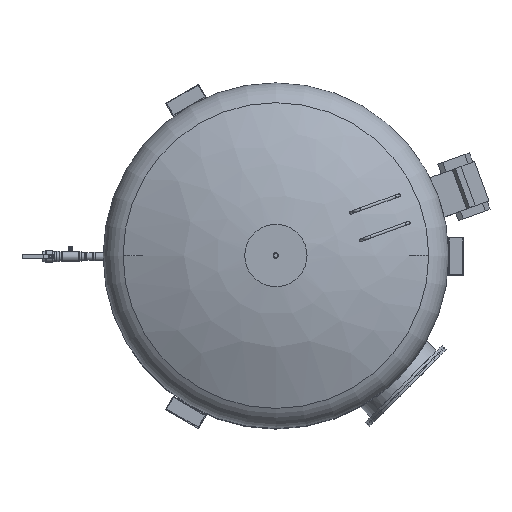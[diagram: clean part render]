
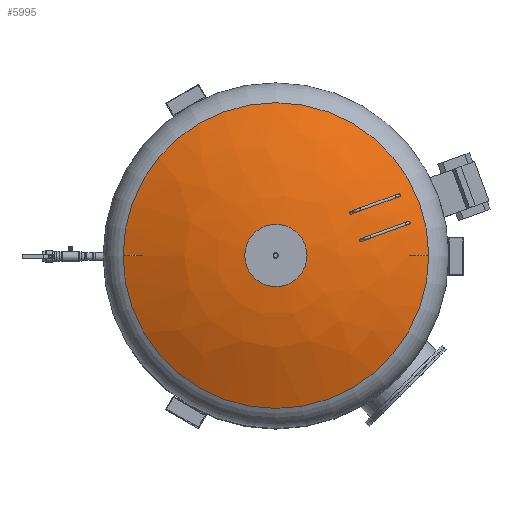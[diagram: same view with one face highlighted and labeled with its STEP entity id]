
A CAD part, top view. The second image highlights one B-rep face of the part: STEP entity #5995.
In plain terms, the highlighted free-form (B-spline) face has degree [2, 2] with [3, 9] control points.
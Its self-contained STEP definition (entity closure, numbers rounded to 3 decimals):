
#14=(
BOUNDED_SURFACE()
B_SPLINE_SURFACE(2,2,((#10149,#10150,#10151,#10152,#10153,#10154,#10155,
#10156,#10157),(#10158,#10159,#10160,#10161,#10162,#10163,#10164,#10165,
#10166),(#10167,#10168,#10169,#10170,#10171,#10172,#10173,#10174,#10175)),
 .UNSPECIFIED.,.F.,.T.,.F.)
B_SPLINE_SURFACE_WITH_KNOTS((3,3),(3,2,2,2,3),(-1.49,-1.114),
(-3.142,-1.571,0.,1.571,3.142),
 .UNSPECIFIED.)
GEOMETRIC_REPRESENTATION_ITEM()
RATIONAL_B_SPLINE_SURFACE(((1.,0.707,1.,0.707,1.,
0.707,1.,0.707,1.),(0.982,0.695,
0.982,0.695,0.982,0.695,
0.982,0.695,0.982),(1.,0.707,
1.,0.707,1.,0.707,1.,0.707,1.)))
REPRESENTATION_ITEM('')
SURFACE()
);
#136=FACE_BOUND('',#898,.T.);
#543=FACE_OUTER_BOUND('',#897,.T.);
#897=EDGE_LOOP('',(#4765,#4766,#4767,#4768,#4769,#4770,#4771,#4772,#4773,
#4774));
#898=EDGE_LOOP('',(#4775,#4776));
#2023=CIRCLE('',#6500,840.428);
#2024=CIRCLE('',#6501,840.428);
#2050=CIRCLE('',#6540,153.005);
#2051=CIRCLE('',#6541,153.005);
#2052=CIRCLE('',#6542,1906.);
#2053=CIRCLE('',#6543,1906.);
#2054=CIRCLE('',#6544,1906.);
#2055=CIRCLE('',#6545,1906.);
#2623=VERTEX_POINT('',#10043);
#2624=VERTEX_POINT('',#10045);
#2647=VERTEX_POINT('',#10144);
#2648=VERTEX_POINT('',#10145);
#2649=VERTEX_POINT('',#10176);
#2650=VERTEX_POINT('',#10178);
#2651=VERTEX_POINT('',#10181);
#2652=VERTEX_POINT('',#10182);
#3375=EDGE_CURVE('',#2623,#2624,#2023,.T.);
#3376=EDGE_CURVE('',#2624,#2623,#2024,.T.);
#3411=EDGE_CURVE('',#2647,#2648,#2050,.T.);
#3412=EDGE_CURVE('',#2648,#2647,#2051,.T.);
#3414=EDGE_CURVE('',#2623,#2649,#2052,.T.);
#3415=EDGE_CURVE('',#2649,#2650,#2053,.T.);
#3416=EDGE_CURVE('',#2650,#2648,#2054,.T.);
#3417=EDGE_CURVE('',#2651,#2652,#2055,.T.);
#4765=ORIENTED_EDGE('',*,*,#3376,.F.);
#4766=ORIENTED_EDGE('',*,*,#3375,.F.);
#4767=ORIENTED_EDGE('',*,*,#3414,.T.);
#4768=ORIENTED_EDGE('',*,*,#3415,.T.);
#4769=ORIENTED_EDGE('',*,*,#3416,.T.);
#4770=ORIENTED_EDGE('',*,*,#3412,.T.);
#4771=ORIENTED_EDGE('',*,*,#3411,.T.);
#4772=ORIENTED_EDGE('',*,*,#3416,.F.);
#4773=ORIENTED_EDGE('',*,*,#3415,.F.);
#4774=ORIENTED_EDGE('',*,*,#3414,.F.);
#4775=ORIENTED_EDGE('',*,*,#3417,.T.);
#4776=ORIENTED_EDGE('',*,*,#3417,.F.);
#5995=ADVANCED_FACE('',(#543,#136),#14,.F.);
#6500=AXIS2_PLACEMENT_3D('',#10046,#7869,#7870);
#6501=AXIS2_PLACEMENT_3D('',#10047,#7871,#7872);
#6540=AXIS2_PLACEMENT_3D('',#10146,#7958,#7959);
#6541=AXIS2_PLACEMENT_3D('',#10147,#7960,#7961);
#6542=AXIS2_PLACEMENT_3D('',#10177,#7963,#7964);
#6543=AXIS2_PLACEMENT_3D('',#10179,#7965,#7966);
#6544=AXIS2_PLACEMENT_3D('',#10180,#7967,#7968);
#6545=AXIS2_PLACEMENT_3D('',#10183,#7969,#7970);
#7869=DIRECTION('center_axis',(0.,0.,-1.));
#7870=DIRECTION('ref_axis',(1.,0.,0.));
#7871=DIRECTION('center_axis',(0.,0.,-1.));
#7872=DIRECTION('ref_axis',(1.,0.,0.));
#7958=DIRECTION('center_axis',(0.,0.,-1.));
#7959=DIRECTION('ref_axis',(1.,0.,0.));
#7960=DIRECTION('center_axis',(0.,0.,-1.));
#7961=DIRECTION('ref_axis',(1.,0.,0.));
#7963=DIRECTION('center_axis',(0.,-1.,0.));
#7964=DIRECTION('ref_axis',(1.,0.,0.));
#7965=DIRECTION('center_axis',(0.,-1.,0.));
#7966=DIRECTION('ref_axis',(1.,0.,0.));
#7967=DIRECTION('center_axis',(0.,-1.,0.));
#7968=DIRECTION('ref_axis',(1.,0.,0.));
#7969=DIRECTION('center_axis',(0.,1.,0.));
#7970=DIRECTION('ref_axis',(-1.,0.,0.));
#10043=CARTESIAN_POINT('',(840.428,0.,3194.457));
#10045=CARTESIAN_POINT('',(-840.428,0.,3194.457));
#10046=CARTESIAN_POINT('Origin',(0.,0.,3194.457));
#10047=CARTESIAN_POINT('Origin',(0.,0.,3194.457));
#10144=CARTESIAN_POINT('',(-153.005,0.,3383.598));
#10145=CARTESIAN_POINT('',(153.005,0.,3383.598));
#10146=CARTESIAN_POINT('Origin',(0.,0.,3383.598));
#10147=CARTESIAN_POINT('Origin',(0.,0.,3383.598));
#10149=CARTESIAN_POINT('Ctrl Pts',(153.005,0.,3383.598));
#10150=CARTESIAN_POINT('Ctrl Pts',(153.005,-153.005,3383.598));
#10151=CARTESIAN_POINT('Ctrl Pts',(0.,-153.005,
3383.598));
#10152=CARTESIAN_POINT('Ctrl Pts',(-153.005,-153.005,3383.598));
#10153=CARTESIAN_POINT('Ctrl Pts',(-153.005,0.,3383.598));
#10154=CARTESIAN_POINT('Ctrl Pts',(-153.005,153.005,3383.598));
#10155=CARTESIAN_POINT('Ctrl Pts',(0.,153.005,
3383.598));
#10156=CARTESIAN_POINT('Ctrl Pts',(153.005,153.005,3383.598));
#10157=CARTESIAN_POINT('Ctrl Pts',(153.005,0.,3383.598));
#10158=CARTESIAN_POINT('Ctrl Pts',(514.722,0.,3354.468));
#10159=CARTESIAN_POINT('Ctrl Pts',(514.722,-514.722,3354.468));
#10160=CARTESIAN_POINT('Ctrl Pts',(0.,-514.722,
3354.468));
#10161=CARTESIAN_POINT('Ctrl Pts',(-514.722,-514.722,
3354.468));
#10162=CARTESIAN_POINT('Ctrl Pts',(-514.722,0.,3354.468));
#10163=CARTESIAN_POINT('Ctrl Pts',(-514.722,514.722,3354.468));
#10164=CARTESIAN_POINT('Ctrl Pts',(0.,514.722,
3354.468));
#10165=CARTESIAN_POINT('Ctrl Pts',(514.722,514.722,3354.468));
#10166=CARTESIAN_POINT('Ctrl Pts',(514.722,0.,3354.468));
#10167=CARTESIAN_POINT('Ctrl Pts',(840.428,0.,3194.457));
#10168=CARTESIAN_POINT('Ctrl Pts',(840.428,-840.428,3194.457));
#10169=CARTESIAN_POINT('Ctrl Pts',(0.,-840.428,
3194.457));
#10170=CARTESIAN_POINT('Ctrl Pts',(-840.428,-840.428,
3194.457));
#10171=CARTESIAN_POINT('Ctrl Pts',(-840.428,0.,3194.457));
#10172=CARTESIAN_POINT('Ctrl Pts',(-840.428,840.428,3194.457));
#10173=CARTESIAN_POINT('Ctrl Pts',(0.,840.428,
3194.457));
#10174=CARTESIAN_POINT('Ctrl Pts',(840.428,840.428,3194.457));
#10175=CARTESIAN_POINT('Ctrl Pts',(840.428,0.,3194.457));
#10176=CARTESIAN_POINT('',(823.061,0.,3202.88));
#10177=CARTESIAN_POINT('Origin',(0.002,0.,
1483.749));
#10178=CARTESIAN_POINT('',(731.756,0.,3243.684));
#10179=CARTESIAN_POINT('Origin',(0.002,0.,1483.749));
#10180=CARTESIAN_POINT('Origin',(0.002,0.,
1483.749));
#10181=CARTESIAN_POINT('',(-823.061,0.,3202.88));
#10182=CARTESIAN_POINT('',(-731.756,0.,3243.684));
#10183=CARTESIAN_POINT('Origin',(-0.002,0.,1483.749));
